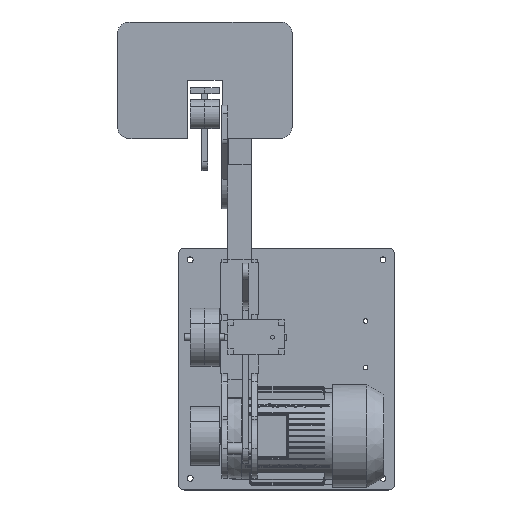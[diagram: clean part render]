
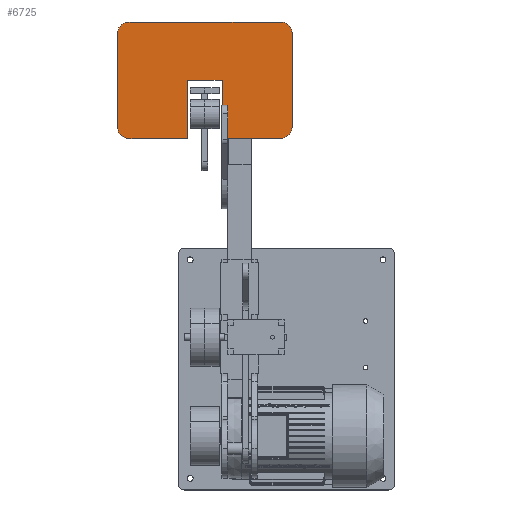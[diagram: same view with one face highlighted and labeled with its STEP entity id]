
A CAD part, top view. The second image highlights one B-rep face of the part: STEP entity #6725.
In plain terms, the highlighted planar face has unit normal (0, 0, 1).
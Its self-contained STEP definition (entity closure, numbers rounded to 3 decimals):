
#6286=CARTESIAN_POINT('Vertex',(5.,484.295,173.4)) ;
#6300=CARTESIAN_POINT('Vertex',(35.,484.295,173.4)) ;
#6303=CARTESIAN_POINT('Line Origine',(20.,484.295,173.4)) ;
#6331=CARTESIAN_POINT('Vertex',(35.,384.295,173.4)) ;
#6334=CARTESIAN_POINT('Line Origine',(35.,434.295,173.4)) ;
#6357=CARTESIAN_POINT('Vertex',(-25.,384.295,173.4)) ;
#6371=CARTESIAN_POINT('Vertex',(-25.,484.295,173.4)) ;
#6374=CARTESIAN_POINT('Line Origine',(-25.,434.295,173.4)) ;
#6391=CARTESIAN_POINT('Line Origine',(-10.,484.295,173.4)) ;
#6421=CARTESIAN_POINT('Vertex',(5.,584.295,173.4)) ;
#6424=CARTESIAN_POINT('Line Origine',(70.,584.295,173.4)) ;
#6428=CARTESIAN_POINT('Vertex',(135.,584.295,173.4)) ;
#6448=CARTESIAN_POINT('Axis2P3D Location',(135.,564.295,173.4)) ;
#6452=CARTESIAN_POINT('Vertex',(155.,564.295,173.4)) ;
#6474=CARTESIAN_POINT('Line Origine',(-60.,584.295,173.4)) ;
#6478=CARTESIAN_POINT('Vertex',(-125.,584.295,173.4)) ;
#6505=CARTESIAN_POINT('Axis2P3D Location',(-125.,564.295,173.4)) ;
#6509=CARTESIAN_POINT('Vertex',(-145.,564.295,173.4)) ;
#6536=CARTESIAN_POINT('Line Origine',(85.,384.295,173.4)) ;
#6540=CARTESIAN_POINT('Vertex',(135.,384.295,173.4)) ;
#6574=CARTESIAN_POINT('Line Origine',(155.,484.295,173.4)) ;
#6578=CARTESIAN_POINT('Vertex',(155.,404.295,173.4)) ;
#6598=CARTESIAN_POINT('Axis2P3D Location',(135.,404.295,173.4)) ;
#6622=CARTESIAN_POINT('Line Origine',(-75.,384.295,173.4)) ;
#6626=CARTESIAN_POINT('Vertex',(-125.,384.295,173.4)) ;
#6652=CARTESIAN_POINT('Vertex',(-145.,404.295,173.4)) ;
#6655=CARTESIAN_POINT('Line Origine',(-145.,484.295,173.4)) ;
#6699=CARTESIAN_POINT('Axis2P3D Location',(0.,0.,173.4)) ;
#6704=CARTESIAN_POINT('Axis2P3D Location',(-125.,404.295,173.4)) ;
#6304=DIRECTION('Vector Direction',(1.,0.,0.)) ;
#6335=DIRECTION('Vector Direction',(0.,-1.,0.)) ;
#6375=DIRECTION('Vector Direction',(0.,-1.,0.)) ;
#6392=DIRECTION('Vector Direction',(-1.,0.,0.)) ;
#6425=DIRECTION('Vector Direction',(-1.,0.,0.)) ;
#6449=DIRECTION('Axis2P3D Direction',(0.,0.,1.)) ;
#6475=DIRECTION('Vector Direction',(1.,0.,0.)) ;
#6506=DIRECTION('Axis2P3D Direction',(0.,0.,1.)) ;
#6537=DIRECTION('Vector Direction',(1.,0.,0.)) ;
#6575=DIRECTION('Vector Direction',(0.,1.,0.)) ;
#6599=DIRECTION('Axis2P3D Direction',(-0.,0.,1.)) ;
#6623=DIRECTION('Vector Direction',(-1.,0.,0.)) ;
#6656=DIRECTION('Vector Direction',(0.,1.,0.)) ;
#6700=DIRECTION('Axis2P3D Direction',(-0.,0.,1.)) ;
#6701=DIRECTION('Axis2P3D XDirection',(1.,0.,0.)) ;
#6705=DIRECTION('Axis2P3D Direction',(-0.,0.,1.)) ;
#6450=AXIS2_PLACEMENT_3D('Circle Axis2P3D',#6448,#6449,$) ;
#6507=AXIS2_PLACEMENT_3D('Circle Axis2P3D',#6505,#6506,$) ;
#6600=AXIS2_PLACEMENT_3D('Circle Axis2P3D',#6598,#6599,$) ;
#6702=AXIS2_PLACEMENT_3D('Plane Axis2P3D',#6699,#6700,#6701) ;
#6706=AXIS2_PLACEMENT_3D('Circle Axis2P3D',#6704,#6705,$) ;
#6710=ORIENTED_EDGE('',*,*,#6628,.T.) ;
#6711=ORIENTED_EDGE('',*,*,#6378,.T.) ;
#6712=ORIENTED_EDGE('',*,*,#6395,.T.) ;
#6713=ORIENTED_EDGE('',*,*,#6307,.T.) ;
#6714=ORIENTED_EDGE('',*,*,#6338,.T.) ;
#6715=ORIENTED_EDGE('',*,*,#6542,.T.) ;
#6716=ORIENTED_EDGE('',*,*,#6602,.F.) ;
#6717=ORIENTED_EDGE('',*,*,#6580,.T.) ;
#6718=ORIENTED_EDGE('',*,*,#6454,.F.) ;
#6719=ORIENTED_EDGE('',*,*,#6430,.T.) ;
#6720=ORIENTED_EDGE('',*,*,#6480,.T.) ;
#6721=ORIENTED_EDGE('',*,*,#6511,.F.) ;
#6722=ORIENTED_EDGE('',*,*,#6659,.T.) ;
#6723=ORIENTED_EDGE('',*,*,#6708,.F.) ;
#6305=VECTOR('Line Direction',#6304,1.) ;
#6336=VECTOR('Line Direction',#6335,1.) ;
#6376=VECTOR('Line Direction',#6375,1.) ;
#6393=VECTOR('Line Direction',#6392,1.) ;
#6426=VECTOR('Line Direction',#6425,1.) ;
#6476=VECTOR('Line Direction',#6475,1.) ;
#6538=VECTOR('Line Direction',#6537,1.) ;
#6576=VECTOR('Line Direction',#6575,1.) ;
#6624=VECTOR('Line Direction',#6623,1.) ;
#6657=VECTOR('Line Direction',#6656,1.) ;
#6725=ADVANCED_FACE('PartBody',(#6724),#6703,.T.) ;
#6451=CIRCLE('generated circle',#6450,20.) ;
#6508=CIRCLE('generated circle',#6507,20.) ;
#6601=CIRCLE('generated circle',#6600,20.) ;
#6707=CIRCLE('generated circle',#6706,20.) ;
#6307=EDGE_CURVE('',#6287,#6301,#6306,.T.) ;
#6338=EDGE_CURVE('',#6301,#6332,#6337,.T.) ;
#6378=EDGE_CURVE('',#6358,#6372,#6377,.F.) ;
#6395=EDGE_CURVE('',#6372,#6287,#6394,.F.) ;
#6430=EDGE_CURVE('',#6429,#6422,#6427,.T.) ;
#6454=EDGE_CURVE('',#6429,#6453,#6451,.F.) ;
#6480=EDGE_CURVE('',#6422,#6479,#6477,.F.) ;
#6511=EDGE_CURVE('',#6510,#6479,#6508,.F.) ;
#6542=EDGE_CURVE('',#6332,#6541,#6539,.T.) ;
#6580=EDGE_CURVE('',#6579,#6453,#6577,.T.) ;
#6602=EDGE_CURVE('',#6579,#6541,#6601,.F.) ;
#6628=EDGE_CURVE('',#6627,#6358,#6625,.F.) ;
#6659=EDGE_CURVE('',#6510,#6653,#6658,.F.) ;
#6708=EDGE_CURVE('',#6627,#6653,#6707,.F.) ;
#6709=EDGE_LOOP('',(#6710,#6711,#6712,#6713,#6714,#6715,#6716,#6717,#6718,#6719,#6720,#6721,#6722,#6723)) ;
#6724=FACE_OUTER_BOUND('',#6709,.T.) ;
#6306=LINE('Line',#6303,#6305) ;
#6337=LINE('Line',#6334,#6336) ;
#6377=LINE('Line',#6374,#6376) ;
#6394=LINE('Line',#6391,#6393) ;
#6427=LINE('Line',#6424,#6426) ;
#6477=LINE('Line',#6474,#6476) ;
#6539=LINE('Line',#6536,#6538) ;
#6577=LINE('Line',#6574,#6576) ;
#6625=LINE('Line',#6622,#6624) ;
#6658=LINE('Line',#6655,#6657) ;
#6703=PLANE('Plane',#6702) ;
#6287=VERTEX_POINT('',#6286) ;
#6301=VERTEX_POINT('',#6300) ;
#6332=VERTEX_POINT('',#6331) ;
#6358=VERTEX_POINT('',#6357) ;
#6372=VERTEX_POINT('',#6371) ;
#6422=VERTEX_POINT('',#6421) ;
#6429=VERTEX_POINT('',#6428) ;
#6453=VERTEX_POINT('',#6452) ;
#6479=VERTEX_POINT('',#6478) ;
#6510=VERTEX_POINT('',#6509) ;
#6541=VERTEX_POINT('',#6540) ;
#6579=VERTEX_POINT('',#6578) ;
#6627=VERTEX_POINT('',#6626) ;
#6653=VERTEX_POINT('',#6652) ;
